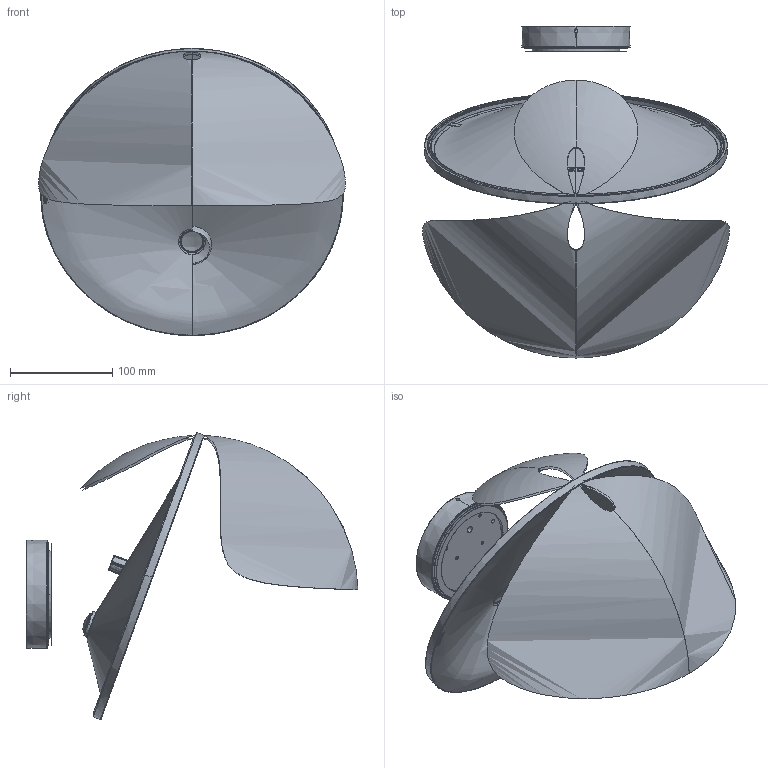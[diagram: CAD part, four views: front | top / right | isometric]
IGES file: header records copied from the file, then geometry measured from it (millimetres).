
Start section: SolidWorks IGES file using analytic representation for surfaces
Global section: file name: F:\foscarini\RS\0_ 3D-2D\FOSCARINI\CATALOGO\BEEP\3d (3ds,dxf,stp,igs)\SOLIDWORKS\BEEP GRANDE PARETE.IGS; native system: SolidWorks 2020; preprocessor: SolidWorks 2020; author: m.tonasso; date: 200206.150242; units: millimetre
Bounding box: 300.65 x 325.2 x 281.3 mm (x, y, z)
Surface area: 350840.6 mm2 (no closed solid volume)
Topology: 0 solids, 0 shells, 583 faces, 7064 edges, 7046 vertices
Faces by surface type: bspline 437, revolution 146
